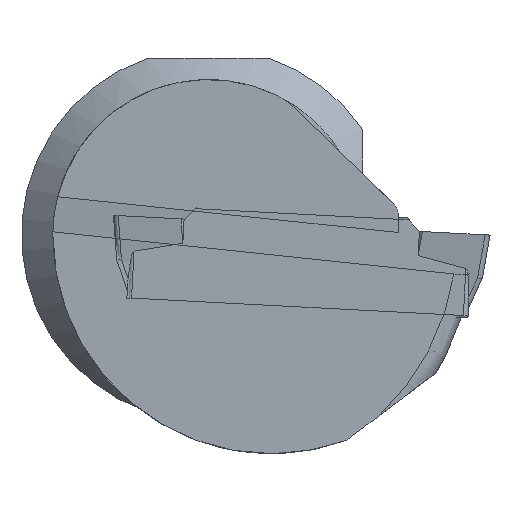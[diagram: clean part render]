
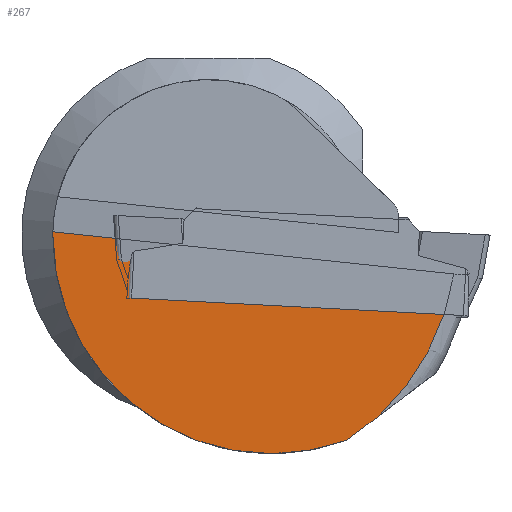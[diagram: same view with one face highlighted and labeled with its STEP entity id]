
A CAD part, left-side view. The second image highlights one B-rep face of the part: STEP entity #267.
In plain terms, the highlighted planar face has unit normal (-1, 0, 0).
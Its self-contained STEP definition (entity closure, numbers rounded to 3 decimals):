
#110=CIRCLE('',#1475,6.6);
#117=CIRCLE('',#1489,10.55);
#118=CIRCLE('',#1490,9.275);
#267=ADVANCED_FACE('',(#385),#326,.F.);
#326=PLANE('',#1491);
#385=FACE_OUTER_BOUND('',#456,.T.);
#456=EDGE_LOOP('',(#740,#741,#742,#743,#744));
#740=ORIENTED_EDGE('',*,*,#1136,.T.);
#741=ORIENTED_EDGE('',*,*,#1137,.F.);
#742=ORIENTED_EDGE('',*,*,#1107,.T.);
#743=ORIENTED_EDGE('',*,*,#1138,.T.);
#744=ORIENTED_EDGE('',*,*,#1139,.T.);
#941=VERTEX_POINT('',#2210);
#942=VERTEX_POINT('',#2212);
#968=VERTEX_POINT('',#2357);
#969=VERTEX_POINT('',#2358);
#970=VERTEX_POINT('',#2361);
#1107=EDGE_CURVE('',#942,#941,#110,.T.);
#1136=EDGE_CURVE('',#968,#969,#117,.T.);
#1137=EDGE_CURVE('',#942,#969,#1273,.T.);
#1138=EDGE_CURVE('',#941,#970,#118,.T.);
#1139=EDGE_CURVE('',#970,#968,#1274,.T.);
#1273=LINE('',#2359,#1384);
#1274=LINE('',#2362,#1385);
#1384=VECTOR('',#1789,1.);
#1385=VECTOR('',#1792,1.);
#1475=AXIS2_PLACEMENT_3D('',#2211,#1747,#1748);
#1489=AXIS2_PLACEMENT_3D('',#2356,#1787,#1788);
#1490=AXIS2_PLACEMENT_3D('',#2360,#1790,#1791);
#1491=AXIS2_PLACEMENT_3D('',#2363,#1793,#1794);
#1747=DIRECTION('',(-1.,0.,0.));
#1748=DIRECTION('',(0.,0.,-1.));
#1787=DIRECTION('',(-1.,0.,0.));
#1788=DIRECTION('',(0.,0.,-1.));
#1789=DIRECTION('',(0.,-0.995,-0.105));
#1790=DIRECTION('',(-1.,0.,0.));
#1791=DIRECTION('',(0.,0.,-1.));
#1792=DIRECTION('',(0.,-0.799,0.602));
#1793=DIRECTION('',(1.,0.,0.));
#1794=DIRECTION('',(0.,0.,-1.));
#2210=CARTESIAN_POINT('',(0.25,18.55,0.));
#2211=CARTESIAN_POINT('',(0.25,11.95,0.));
#2212=CARTESIAN_POINT('',(0.25,18.548,0.141));
#2356=CARTESIAN_POINT('',(0.25,11.95,0.));
#2357=CARTESIAN_POINT('',(0.25,4.702,-7.666));
#2358=CARTESIAN_POINT('',(0.25,1.529,-1.648));
#2359=CARTESIAN_POINT('',(0.25,7.062,-1.066));
#2360=CARTESIAN_POINT('',(0.25,9.275,0.));
#2361=CARTESIAN_POINT('',(0.25,6.087,-8.71));
#2362=CARTESIAN_POINT('',(0.25,2.451,-5.97));
#2363=CARTESIAN_POINT('',(0.25,6.95,0.));
